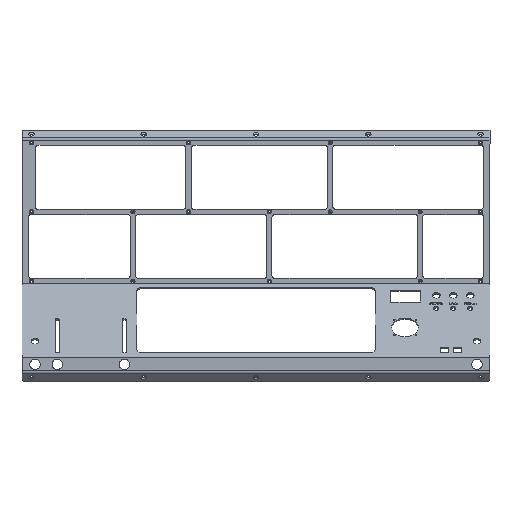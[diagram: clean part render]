
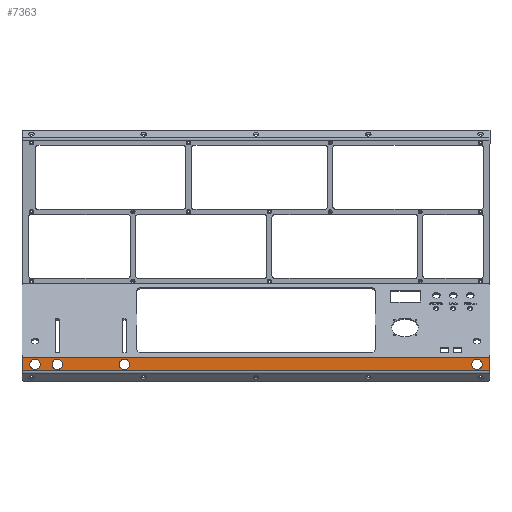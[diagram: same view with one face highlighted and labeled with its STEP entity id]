
A CAD part, top view. The second image highlights one B-rep face of the part: STEP entity #7363.
In plain terms, the highlighted planar face has unit normal (0, 0, 1).
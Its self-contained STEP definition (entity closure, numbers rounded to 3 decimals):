
#204=CIRCLE('',#7847,8.);
#206=CIRCLE('',#7850,8.);
#208=CIRCLE('',#7853,8.);
#210=CIRCLE('',#7856,8.);
#529=FACE_BOUND('',#1581,.T.);
#530=FACE_BOUND('',#1582,.T.);
#531=FACE_BOUND('',#1583,.T.);
#532=FACE_BOUND('',#1584,.T.);
#802=PLANE('',#7901);
#1158=FACE_OUTER_BOUND('',#1580,.T.);
#1580=EDGE_LOOP('',(#6505,#6506,#6507,#6508));
#1581=EDGE_LOOP('',(#6509));
#1582=EDGE_LOOP('',(#6510));
#1583=EDGE_LOOP('',(#6511));
#1584=EDGE_LOOP('',(#6512));
#2319=LINE('',#12725,#2991);
#2328=LINE('',#12750,#3000);
#2330=LINE('',#12757,#3002);
#2335=LINE('',#12769,#3007);
#2991=VECTOR('',#9504,10.);
#3000=VECTOR('',#9533,10.);
#3002=VECTOR('',#9541,4.32);
#3007=VECTOR('',#9556,10.);
#3753=VERTEX_POINT('',#12624);
#3755=VERTEX_POINT('',#12630);
#3757=VERTEX_POINT('',#12636);
#3759=VERTEX_POINT('',#12642);
#3785=VERTEX_POINT('',#12722);
#3786=VERTEX_POINT('',#12724);
#3791=VERTEX_POINT('',#12748);
#3792=VERTEX_POINT('',#12749);
#4713=EDGE_CURVE('',#3753,#3753,#204,.T.);
#4716=EDGE_CURVE('',#3755,#3755,#206,.T.);
#4719=EDGE_CURVE('',#3757,#3757,#208,.T.);
#4722=EDGE_CURVE('',#3759,#3759,#210,.T.);
#4762=EDGE_CURVE('',#3786,#3785,#2319,.T.);
#4774=EDGE_CURVE('',#3791,#3792,#2328,.T.);
#4778=EDGE_CURVE('',#3792,#3786,#2330,.T.);
#4785=EDGE_CURVE('',#3785,#3791,#2335,.T.);
#6505=ORIENTED_EDGE('',*,*,#4762,.T.);
#6506=ORIENTED_EDGE('',*,*,#4785,.T.);
#6507=ORIENTED_EDGE('',*,*,#4774,.T.);
#6508=ORIENTED_EDGE('',*,*,#4778,.T.);
#6509=ORIENTED_EDGE('',*,*,#4713,.T.);
#6510=ORIENTED_EDGE('',*,*,#4716,.T.);
#6511=ORIENTED_EDGE('',*,*,#4719,.T.);
#6512=ORIENTED_EDGE('',*,*,#4722,.T.);
#7363=ADVANCED_FACE('',(#1158,#529,#530,#531,#532),#802,.T.);
#7847=AXIS2_PLACEMENT_3D('',#12625,#9402,#9403);
#7850=AXIS2_PLACEMENT_3D('',#12631,#9409,#9410);
#7853=AXIS2_PLACEMENT_3D('',#12637,#9416,#9417);
#7856=AXIS2_PLACEMENT_3D('',#12643,#9423,#9424);
#7901=AXIS2_PLACEMENT_3D('',#12772,#9560,#9561);
#9402=DIRECTION('center_axis',(0.,0.,
-1.));
#9403=DIRECTION('ref_axis',(-1.,0.,0.));
#9409=DIRECTION('center_axis',(0.,0.,
-1.));
#9410=DIRECTION('ref_axis',(-1.,0.,0.));
#9416=DIRECTION('center_axis',(0.,0.,
-1.));
#9417=DIRECTION('ref_axis',(-1.,0.,0.));
#9423=DIRECTION('center_axis',(0.,0.,
-1.));
#9424=DIRECTION('ref_axis',(-1.,0.,0.));
#9504=DIRECTION('',(1.,0.,0.));
#9533=DIRECTION('',(-1.,0.,0.));
#9541=DIRECTION('',(0.,-1.,0.));
#9556=DIRECTION('',(0.,1.,0.));
#9560=DIRECTION('center_axis',(0.,0.,
1.));
#9561=DIRECTION('ref_axis',(1.,0.,0.));
#12624=CARTESIAN_POINT('',(-203.35,-96.144,110.137));
#12625=CARTESIAN_POINT('Origin',(-211.35,-96.144,110.137));
#12630=CARTESIAN_POINT('',(439.65,-96.144,110.137));
#12631=CARTESIAN_POINT('Origin',(431.65,-96.144,110.137));
#12636=CARTESIAN_POINT('',(-237.35,-96.144,110.137));
#12637=CARTESIAN_POINT('Origin',(-245.35,-96.144,110.137));
#12642=CARTESIAN_POINT('',(-100.35,-96.144,110.137));
#12643=CARTESIAN_POINT('Origin',(-108.35,-96.144,110.137));
#12722=CARTESIAN_POINT('',(451.65,-106.158,110.137));
#12724=CARTESIAN_POINT('',(-265.35,-106.158,110.137));
#12725=CARTESIAN_POINT('',(272.4,-106.158,110.137));
#12748=CARTESIAN_POINT('',(451.65,-86.129,110.137));
#12749=CARTESIAN_POINT('',(-265.35,-86.129,110.137));
#12750=CARTESIAN_POINT('',(93.15,-86.129,110.137));
#12757=CARTESIAN_POINT('',(-265.35,-72.557,110.137));
#12769=CARTESIAN_POINT('',(451.65,-86.129,110.137));
#12772=CARTESIAN_POINT('Origin',(93.15,-95.69,110.137));
